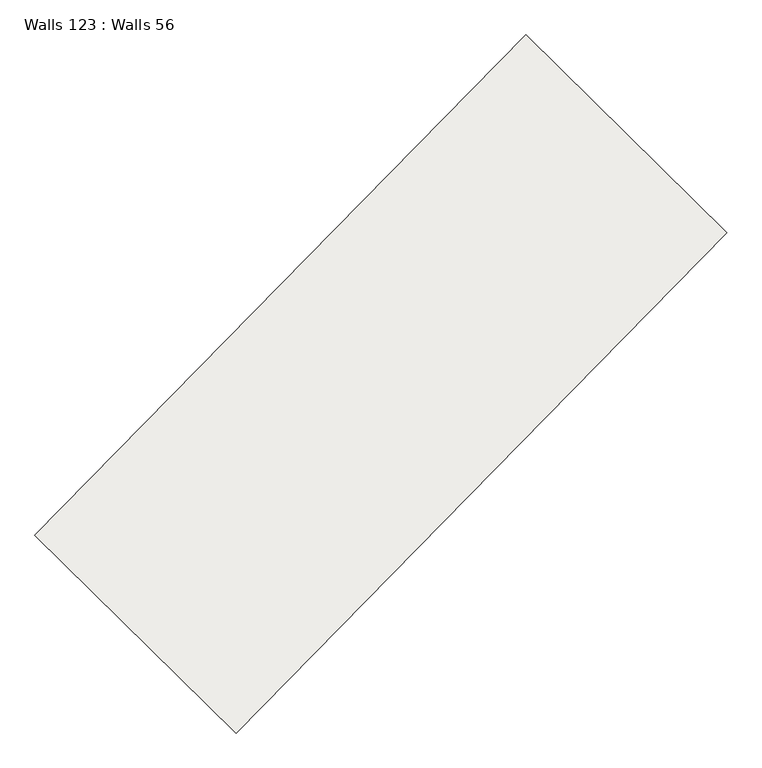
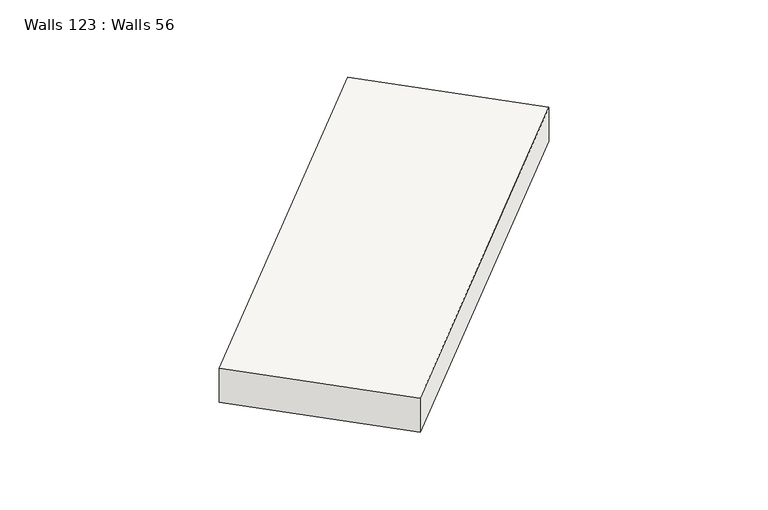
"""IFC4 building model written with IfcOpenShell, lengths in millimetres: slab geometry, Walls 123 : Walls 56."""

from ifc_helpers import new_model, si_unit, frame, origin, place, context, project, spatial, polyline, outline, extrude, source, transform, mapped, element, save


def walls_123_walls_56_08c01e03(model_context):
    return source(origin(), model_context, "Body", "SweptSolid", [
        extrude(outline(polyline([(-350.0, 0.0), (350.0, 0.0), (260.0, -8699.9999994), (-440.0, -8699.9999994), (-350.0, 0.0)])), frame((-42676.8190767, -202690.640244, 637830.0), z_axis=(-0.7137361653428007, 0.700414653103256, 0.0), x_axis=(0.0, 0.0, 1.0)), (0.0, 0.0, 1.0), 3499.999995),
    ])


if __name__ == "__main__":
    model = new_model("IFC4")
    model_context = context("Model", 3, world=origin())
    ifc_project = project(units=[si_unit("LENGTHUNIT", "METRE", prefix="MILLI")], contexts=[model_context])
    site = spatial("IfcSite", under=ifc_project)
    building = spatial("IfcBuilding", under=site)
    placement = place(None, origin())
    walls_123_walls_56_shape = walls_123_walls_56_08c01e03(model_context)
    element("IfcSlab", 1, ObjectType="Walls 123 : Walls 56", at=placement, inside=building, context=model_context, shape_type="MappedRepresentation", body=[
        mapped(walls_123_walls_56_shape, transform((0.0, 0.0, 0.0), x_axis=(1.0, 0.0, 0.0), y_axis=(0.0, 1.0, 0.0), z_axis=(0.0, 0.0, 1.0))),
    ])
    save(model, "model.ifc")
